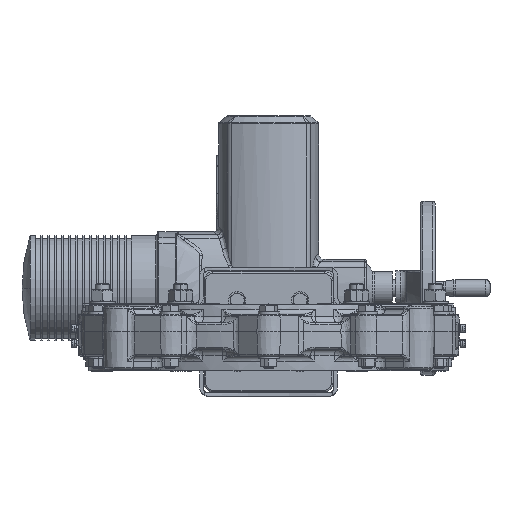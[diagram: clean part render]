
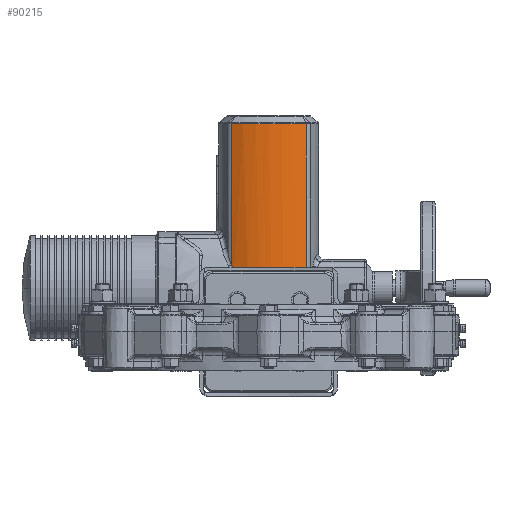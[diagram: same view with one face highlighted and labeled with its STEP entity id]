
A CAD part, front view. The second image highlights one B-rep face of the part: STEP entity #90215.
In plain terms, the highlighted cylindrical face has radius 100 mm (diameter 200 mm), a partial arc.
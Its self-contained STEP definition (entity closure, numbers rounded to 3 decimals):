
#5352 = LINE ( 'NONE', #51134, #117768 ) ;
#5560 = VERTEX_POINT ( 'NONE', #42277 ) ;
#7031 = B_SPLINE_CURVE_WITH_KNOTS ( 'NONE', 3,
 ( #73982, #164736, #89962, #196668, #105412, #13923, #120801, #29276, #136129, #44597, #151433, #59960, #166656, #75280, #181969, #90637, #197326, #106072, #14570, #121451, #29935, #136764, #45237, #152071, #60587, #167301 ),
 .UNSPECIFIED., .F., .F.,
 ( 4, 2, 2, 2, 2, 2, 2, 2, 2, 2, 2, 2, 4 ),
 ( 0., 0.01, 0.021, 0.026, 0.029, 0.031, 0.042, 0.052, 0.057, 0.06, 0.062, 0.073, 0.083 ),
 .UNSPECIFIED. ) ;
#10834 = CARTESIAN_POINT ( 'NONE',  ( -40.772, 881.683, 71.911 ) ) ;
#13803 = CARTESIAN_POINT ( 'NONE',  ( 43.041, 882.737, 60.688 ) ) ;
#13923 = CARTESIAN_POINT ( 'NONE',  ( -15.843, 874.248, 65.951 ) ) ;
#14570 = CARTESIAN_POINT ( 'NONE',  ( 20.406, 875.1, 65.41 ) ) ;
#19070 = VERTEX_POINT ( 'NONE', #129360 ) ;
#21368 = VERTEX_POINT ( 'NONE', #92425 ) ;
#22396 = EDGE_CURVE ( 'NONE', #5560, #31341, #7031, .T. ) ;
#25158 = CYLINDRICAL_SURFACE ( 'NONE', #52425, 100. ) ;
#26171 = CARTESIAN_POINT ( 'NONE',  ( -37.946, 880.476, 64.739 ) ) ;
#27314 = DIRECTION ( 'NONE',  ( 0., 0., -1. ) ) ;
#28939 = LINE ( 'NONE', #118862, #136443 ) ;
#29276 = CARTESIAN_POINT ( 'NONE',  ( -11.541, 873.664, 66.324 ) ) ;
#29935 = CARTESIAN_POINT ( 'NONE',  ( 22.947, 875.665, 65.053 ) ) ;
#31341 = VERTEX_POINT ( 'NONE', #13803 ) ;
#39967 = CARTESIAN_POINT ( 'NONE',  ( 0., 973., 247.75 ) ) ;
#42277 = CARTESIAN_POINT ( 'NONE',  ( -37.247, 880.196, 62.232 ) ) ;
#44597 = CARTESIAN_POINT ( 'NONE',  ( -8.931, 873.396, 66.496 ) ) ;
#45237 = CARTESIAN_POINT ( 'NONE',  ( 30.423, 877.679, 63.785 ) ) ;
#48623 = CARTESIAN_POINT ( 'NONE',  ( -43.041, 882.737, 238.426 ) ) ;
#49028 = DIRECTION ( 'NONE',  ( 0., 0., -1. ) ) ;
#51134 = CARTESIAN_POINT ( 'NONE',  ( -43.041, 882.737, 247.75 ) ) ;
#52425 = AXIS2_PLACEMENT_3D ( 'NONE', #39967, #161437, #146787 ) ;
#52842 = B_SPLINE_CURVE_WITH_KNOTS ( 'NONE', 3,
 ( #102289, #193576, #10834, #117733, #26171, #133070 ),
 .UNSPECIFIED., .F., .F.,
 ( 4, 2, 4 ),
 ( 0., 0.008, 0.016 ),
 .UNSPECIFIED. ) ;
#58381 = ORIENTED_EDGE ( 'NONE', *, *, #85572, .T. ) ;
#59960 = CARTESIAN_POINT ( 'NONE',  ( -3.699, 873.007, 66.745 ) ) ;
#60587 = CARTESIAN_POINT ( 'NONE',  ( 39.975, 881.275, 61.568 ) ) ;
#62647 = CIRCLE ( 'NONE', #112794, 100. ) ;
#69178 = EDGE_CURVE ( 'NONE', #19070, #31341, #28939, .T. ) ;
#70286 = ORIENTED_EDGE ( 'NONE', *, *, #22396, .T. ) ;
#73982 = CARTESIAN_POINT ( 'NONE',  ( -37.247, 880.196, 62.232 ) ) ;
#75280 = CARTESIAN_POINT ( 'NONE',  ( 6.69, 873.164, 66.645 ) ) ;
#85572 = EDGE_CURVE ( 'NONE', #19070, #180751, #62647, .T. ) ;
#89962 = CARTESIAN_POINT ( 'NONE',  ( -30.843, 877.814, 63.702 ) ) ;
#90215 = ADVANCED_FACE ( 'NONE', ( #120795 ), #25158, .T. ) ;
#90637 = CARTESIAN_POINT ( 'NONE',  ( 15.279, 874.159, 66.008 ) ) ;
#92425 = CARTESIAN_POINT ( 'NONE',  ( -43.041, 882.737, 76.501 ) ) ;
#95394 = ORIENTED_EDGE ( 'NONE', *, *, #140997, .T. ) ;
#102289 = CARTESIAN_POINT ( 'NONE',  ( -43.041, 882.737, 76.501 ) ) ;
#104303 = EDGE_CURVE ( 'NONE', #180751, #21368, #5352, .T. ) ;
#105412 = CARTESIAN_POINT ( 'NONE',  ( -20.937, 875.156, 65.374 ) ) ;
#106072 = CARTESIAN_POINT ( 'NONE',  ( 19.552, 874.926, 65.52 ) ) ;
#112794 = AXIS2_PLACEMENT_3D ( 'NONE', #140518, #49028, #155859 ) ;
#117733 = CARTESIAN_POINT ( 'NONE',  ( -38.812, 880.833, 67.167 ) ) ;
#117768 = VECTOR ( 'NONE', #142586, 1000. ) ;
#118862 = CARTESIAN_POINT ( 'NONE',  ( 43.041, 882.737, 247.75 ) ) ;
#120795 = FACE_OUTER_BOUND ( 'NONE', #182238, .T. ) ;
#120801 = CARTESIAN_POINT ( 'NONE',  ( -14.131, 873.988, 66.117 ) ) ;
#121451 = CARTESIAN_POINT ( 'NONE',  ( 22.103, 875.47, 65.176 ) ) ;
#129360 = CARTESIAN_POINT ( 'NONE',  ( 43.041, 882.737, 238.426 ) ) ;
#133070 = CARTESIAN_POINT ( 'NONE',  ( -37.247, 880.196, 62.232 ) ) ;
#133474 = ORIENTED_EDGE ( 'NONE', *, *, #104303, .T. ) ;
#136129 = CARTESIAN_POINT ( 'NONE',  ( -10.673, 873.567, 66.386 ) ) ;
#136443 = VECTOR ( 'NONE', #27314, 1000. ) ;
#136764 = CARTESIAN_POINT ( 'NONE',  ( 27.143, 876.692, 64.404 ) ) ;
#140518 = CARTESIAN_POINT ( 'NONE',  ( 0., 973., 238.426 ) ) ;
#140997 = EDGE_CURVE ( 'NONE', #21368, #5560, #52842, .T. ) ;
#142586 = DIRECTION ( 'NONE',  ( 0., 0., -1. ) ) ;
#146787 = DIRECTION ( 'NONE',  ( -1., 0., 0. ) ) ;
#151433 = CARTESIAN_POINT ( 'NONE',  ( -8.057, 873.321, 66.544 ) ) ;
#152071 = CARTESIAN_POINT ( 'NONE',  ( 36.839, 879.97, 62.368 ) ) ;
#155859 = DIRECTION ( 'NONE',  ( 1., 0., 0. ) ) ;
#161437 = DIRECTION ( 'NONE',  ( 0., 0., -1. ) ) ;
#164736 = CARTESIAN_POINT ( 'NONE',  ( -34.072, 878.921, 63.013 ) ) ;
#166656 = CARTESIAN_POINT ( 'NONE',  ( -0.227, 872.94, 66.788 ) ) ;
#167301 = CARTESIAN_POINT ( 'NONE',  ( 43.041, 882.737, 60.688 ) ) ;
#168365 = ORIENTED_EDGE ( 'NONE', *, *, #69178, .F. ) ;
#180751 = VERTEX_POINT ( 'NONE', #48623 ) ;
#181969 = CARTESIAN_POINT ( 'NONE',  ( 10.134, 873.455, 66.458 ) ) ;
#182238 = EDGE_LOOP ( 'NONE', ( #95394, #70286, #168365, #58381, #133474 ) ) ;
#193576 = CARTESIAN_POINT ( 'NONE',  ( -41.868, 882.177, 74.227 ) ) ;
#196668 = CARTESIAN_POINT ( 'NONE',  ( -24.276, 875.931, 64.883 ) ) ;
#197326 = CARTESIAN_POINT ( 'NONE',  ( 16.99, 874.439, 65.83 ) ) ;
